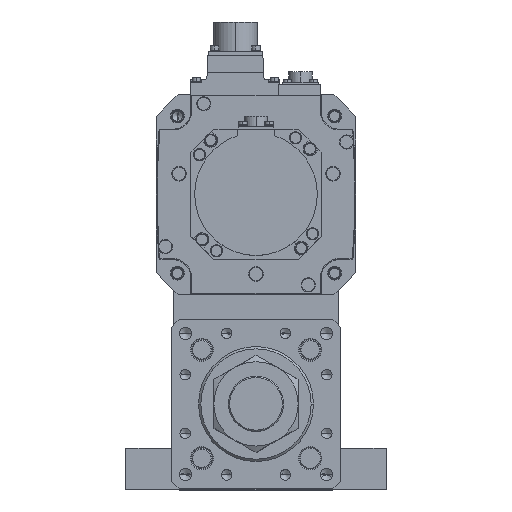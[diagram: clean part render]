
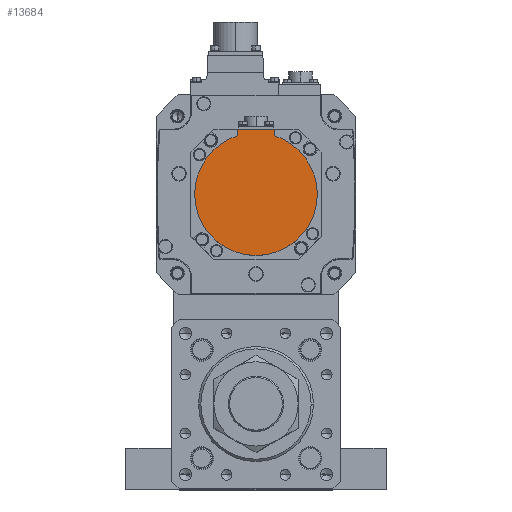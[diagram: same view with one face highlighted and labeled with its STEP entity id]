
A CAD part, top view. The second image highlights one B-rep face of the part: STEP entity #13684.
In plain terms, the highlighted planar face has unit normal (0, 0, 1) as drawn and (0, 0, -1) by its records, which use the part's own axes.
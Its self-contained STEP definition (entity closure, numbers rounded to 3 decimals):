
#1307 = CIRCLE ( 'NONE', #21539, 40. ) ;
#1309 = CARTESIAN_POINT ( 'NONE',  ( -12., -38.158, -167. ) ) ;
#2030 = VECTOR ( 'NONE', #36865, 1000. ) ;
#3518 = DIRECTION ( 'NONE',  ( 1., 0., 0. ) ) ;
#5366 = DIRECTION ( 'NONE',  ( 0., 1., 0. ) ) ;
#5367 = DIRECTION ( 'NONE',  ( 1., 0., 0. ) ) ;
#5722 = DIRECTION ( 'NONE',  ( 0., 0., 1. ) ) ;
#5898 = VERTEX_POINT ( 'NONE', #5899 ) ;
#5899 = CARTESIAN_POINT ( 'NONE',  ( 40., 0., -167. ) ) ;
#8108 = LINE ( 'NONE', #26676, #9439 ) ;
#8352 = LINE ( 'NONE', #33785, #2030 ) ;
#8397 = CARTESIAN_POINT ( 'NONE',  ( 0., 0., -167. ) ) ;
#8664 = ORIENTED_EDGE ( 'NONE', *, *, #17886, .F. ) ;
#9107 = DIRECTION ( 'NONE',  ( 0., 1., 0. ) ) ;
#9439 = VECTOR ( 'NONE', #9107, 1000. ) ;
#9644 = AXIS2_PLACEMENT_3D ( 'NONE', #8397, #14027, #5367 ) ;
#10033 = ORIENTED_EDGE ( 'NONE', *, *, #19868, .F. ) ;
#10037 = EDGE_CURVE ( 'NONE', #34529, #28053, #12411, .T. ) ;
#10832 = ORIENTED_EDGE ( 'NONE', *, *, #15799, .T. ) ;
#12411 = LINE ( 'NONE', #31796, #30784 ) ;
#12497 = VERTEX_POINT ( 'NONE', #1309 ) ;
#13661 = DIRECTION ( 'NONE',  ( 1., 0., 0. ) ) ;
#13684 = ADVANCED_FACE ( 'NONE', ( #37839 ), #23410, .F. ) ;
#14027 = DIRECTION ( 'NONE',  ( 0., 0., 1. ) ) ;
#15379 = CARTESIAN_POINT ( 'NONE',  ( 12., -38.158, -167. ) ) ;
#15799 = EDGE_CURVE ( 'NONE', #34529, #36183, #8352, .T. ) ;
#16330 = ORIENTED_EDGE ( 'NONE', *, *, #25653, .F. ) ;
#17886 = EDGE_CURVE ( 'NONE', #37501, #12497, #28823, .T. ) ;
#18747 = CARTESIAN_POINT ( 'NONE',  ( -12., -42.5, -167. ) ) ;
#19343 = DIRECTION ( 'NONE',  ( 0., 0., 1. ) ) ;
#19599 = CARTESIAN_POINT ( 'NONE',  ( 0., 0., -167. ) ) ;
#19868 = EDGE_CURVE ( 'NONE', #5898, #37501, #1307, .T. ) ;
#21539 = AXIS2_PLACEMENT_3D ( 'NONE', #19599, #19343, #13661 ) ;
#23252 = CIRCLE ( 'NONE', #25674, 40. ) ;
#23324 = AXIS2_PLACEMENT_3D ( 'NONE', #23787, #5722, #26220 ) ;
#23410 = PLANE ( 'NONE',  #23324 ) ;
#23787 = CARTESIAN_POINT ( 'NONE',  ( 0., -1.249, -167. ) ) ;
#24186 = EDGE_LOOP ( 'NONE', ( #35002, #8664, #10033, #16330, #26422, #10832 ) ) ;
#25653 = EDGE_CURVE ( 'NONE', #28053, #5898, #23252, .T. ) ;
#25674 = AXIS2_PLACEMENT_3D ( 'NONE', #35558, #29465, #3518 ) ;
#26220 = DIRECTION ( 'NONE',  ( 1., 0., 0. ) ) ;
#26422 = ORIENTED_EDGE ( 'NONE', *, *, #10037, .F. ) ;
#26596 = EDGE_CURVE ( 'NONE', #36183, #12497, #8108, .T. ) ;
#26676 = CARTESIAN_POINT ( 'NONE',  ( -12., -40.329, -167. ) ) ;
#28053 = VERTEX_POINT ( 'NONE', #15379 ) ;
#28823 = CIRCLE ( 'NONE', #9644, 40. ) ;
#29465 = DIRECTION ( 'NONE',  ( 0., 0., 1. ) ) ;
#30784 = VECTOR ( 'NONE', #5366, 1000. ) ;
#31796 = CARTESIAN_POINT ( 'NONE',  ( 12., -1.249, -167. ) ) ;
#32119 = CARTESIAN_POINT ( 'NONE',  ( 12., -42.5, -167. ) ) ;
#33785 = CARTESIAN_POINT ( 'NONE',  ( 0., -42.5, -167. ) ) ;
#34529 = VERTEX_POINT ( 'NONE', #32119 ) ;
#35002 = ORIENTED_EDGE ( 'NONE', *, *, #26596, .T. ) ;
#35537 = CARTESIAN_POINT ( 'NONE',  ( -40., 0., -167. ) ) ;
#35558 = CARTESIAN_POINT ( 'NONE',  ( 0., 0., -167. ) ) ;
#36183 = VERTEX_POINT ( 'NONE', #18747 ) ;
#36865 = DIRECTION ( 'NONE',  ( -1., 0., 0. ) ) ;
#37501 = VERTEX_POINT ( 'NONE', #35537 ) ;
#37839 = FACE_OUTER_BOUND ( 'NONE', #24186, .T. ) ;
